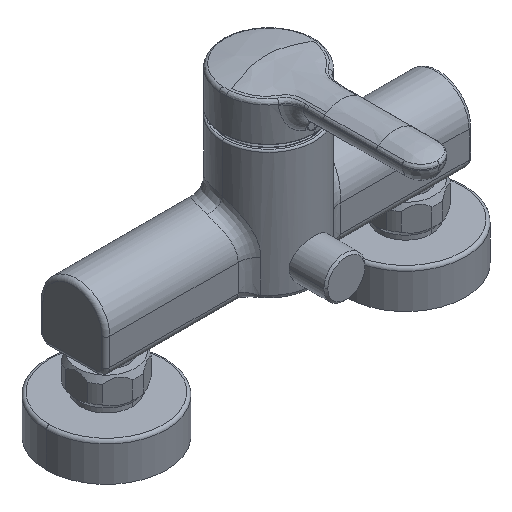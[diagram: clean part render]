
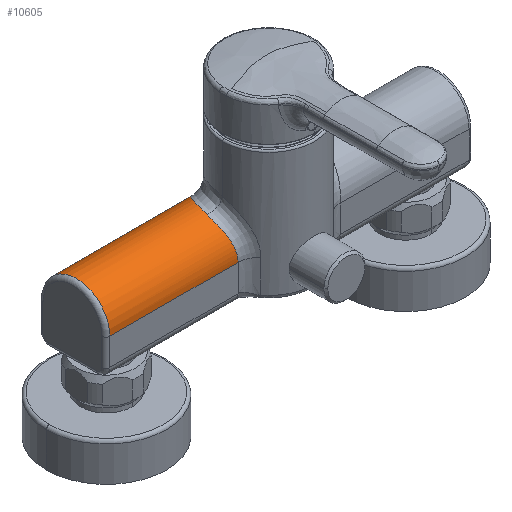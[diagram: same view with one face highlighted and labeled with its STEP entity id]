
A CAD part, isometric view. The second image highlights one B-rep face of the part: STEP entity #10605.
In plain terms, the highlighted cylindrical face has radius 16.75 mm (diameter 33.5 mm), a partial arc.
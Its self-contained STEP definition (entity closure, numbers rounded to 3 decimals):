
#1958=CARTESIAN_POINT('',(-90.,0.,0.));
#1959=DIRECTION('',(-1.,0.,0.));
#1960=DIRECTION('',(0.,-1.,0.));
#1961=AXIS2_PLACEMENT_3D('',#1958,#1959,#1960);
#1963=DIRECTION('',(1.,0.,0.));
#1964=VECTOR('',#1963,83.987);
#1965=CARTESIAN_POINT('',(-90.,16.75,0.));
#1966=LINE('',#1965,#1964);
#1967=CARTESIAN_POINT('',(-6.014,16.75,
0.003));
#1968=CARTESIAN_POINT('',(-6.134,16.75,
0.096));
#1969=CARTESIAN_POINT('',(-6.579,16.747,
0.446));
#1970=CARTESIAN_POINT('',(-7.381,16.722,1.086));
#1971=CARTESIAN_POINT('',(-8.453,16.644,1.954));
#1972=CARTESIAN_POINT('',(-9.626,16.505,2.916));
#1973=CARTESIAN_POINT('',(-10.91,16.285,3.975));
#1974=CARTESIAN_POINT('',(-12.316,15.959,5.139));
#1975=CARTESIAN_POINT('',(-13.855,15.496,6.413));
#1976=CARTESIAN_POINT('',(-15.537,14.851,7.803));
#1977=CARTESIAN_POINT('',(-17.373,13.967,9.308));
#1978=CARTESIAN_POINT('',(-19.37,12.76,10.923));
#1979=CARTESIAN_POINT('',(-21.117,11.422,12.301));
#1980=CARTESIAN_POINT('',(-22.556,10.083,13.4));
#1981=CARTESIAN_POINT('',(-23.651,8.909,14.209));
#1982=CARTESIAN_POINT('',(-24.686,7.625,14.939));
#1983=CARTESIAN_POINT('',(-25.613,6.279,15.552));
#1984=CARTESIAN_POINT('',(-26.425,4.892,16.041));
#1985=CARTESIAN_POINT('',(-27.103,3.52,16.396));
#1986=CARTESIAN_POINT('',(-27.674,2.13,16.633));
#1987=CARTESIAN_POINT('',(-28.132,0.762,
16.751));
#1988=CARTESIAN_POINT('',(-28.494,-0.61,
16.757));
#1989=CARTESIAN_POINT('',(-28.759,-1.962,
16.653));
#1990=CARTESIAN_POINT('',(-28.933,-3.299,
16.44));
#1991=CARTESIAN_POINT('',(-28.994,-4.17,
16.229));
#1992=CARTESIAN_POINT('',(-29.01,-4.6,
16.106));
#1994=CARTESIAN_POINT('',(-29.01,-4.6,
16.106));
#1995=CARTESIAN_POINT('',(-29.027,-5.016,
15.987));
#1996=CARTESIAN_POINT('',(-29.035,-5.837,
15.718));
#1997=CARTESIAN_POINT('',(-28.976,-7.054,
15.212));
#1998=CARTESIAN_POINT('',(-28.851,-8.242,
14.603));
#1999=CARTESIAN_POINT('',(-28.66,-9.419,
13.874));
#2000=CARTESIAN_POINT('',(-28.412,-10.543,
13.042));
#2001=CARTESIAN_POINT('',(-28.109,-11.626,
12.087));
#2002=CARTESIAN_POINT('',(-27.771,-12.628,
11.037));
#2003=CARTESIAN_POINT('',(-27.41,-13.545,
9.89));
#2004=CARTESIAN_POINT('',(-27.05,-14.351,
8.679));
#2005=CARTESIAN_POINT('',(-26.71,-15.038,
7.423));
#2006=CARTESIAN_POINT('',(-26.406,-15.603,
6.144));
#2007=CARTESIAN_POINT('',(-26.155,-16.044,
4.872));
#2008=CARTESIAN_POINT('',(-25.959,-16.373,
3.609));
#2009=CARTESIAN_POINT('',(-25.823,-16.595,
2.383));
#2010=CARTESIAN_POINT('',(-25.744,-16.722,
1.178));
#2011=CARTESIAN_POINT('',(-25.727,-16.75,0.392));
#2012=CARTESIAN_POINT('',(-25.727,-16.75,0.));
#2083=DIRECTION('',(1.,0.,0.));
#2084=VECTOR('',#2083,64.273);
#2085=CARTESIAN_POINT('',(-90.,-16.75,0.));
#2086=LINE('',#2085,#2084);
#4098=CARTESIAN_POINT('',(-90.,-16.75,0.));
#4099=CARTESIAN_POINT('',(-90.,16.75,0.));
#4100=VERTEX_POINT('',#4098);
#4101=VERTEX_POINT('',#4099);
#4150=VERTEX_POINT('',#1994);
#4151=VERTEX_POINT('',#2012);
#4152=VERTEX_POINT('',#1967);
#10591=CARTESIAN_POINT('',(-92.,0.,0.));
#10592=DIRECTION('',(1.,0.,0.));
#10593=DIRECTION('',(0.,0.,-1.));
#10594=AXIS2_PLACEMENT_3D('',#10591,#10592,#10593);
#10595=CYLINDRICAL_SURFACE('',#10594,16.75);
#10596=ORIENTED_EDGE('',*,*,#10584,.T.);
#10597=ORIENTED_EDGE('',*,*,#10538,.T.);
#10598=ORIENTED_EDGE('',*,*,#10517,.T.);
#10600=ORIENTED_EDGE('',*,*,#10599,.T.);
#10602=ORIENTED_EDGE('',*,*,#10601,.F.);
#10603=EDGE_LOOP('',(#10596,#10597,#10598,#10600,#10602));
#10604=FACE_OUTER_BOUND('',#10603,.F.);
#10605=ADVANCED_FACE('',(#10604),#10595,.T.);
#1962=CIRCLE('',#1961,16.75);
#1993=B_SPLINE_CURVE_WITH_KNOTS('',3,(#1967,#1968,#1969,#1970,#1971,#1972,#1973,
#1974,#1975,#1976,#1977,#1978,#1979,#1980,#1981,#1982,#1983,#1984,#1985,#1986,
#1987,#1988,#1989,#1990,#1991,#1992),.UNSPECIFIED.,.F.,.F.,(4,1,1,1,1,1,1,1,1,1,
1,1,1,1,1,1,1,1,1,1,1,1,1,4),(0.,0.012,0.044,
0.078,0.117,0.159,0.205,
0.256,0.312,0.375,0.445,
0.524,0.569,0.614,0.659,
0.704,0.745,0.785,0.822,
0.86,0.895,0.931,0.965,1.),
.UNSPECIFIED.);
#2013=B_SPLINE_CURVE_WITH_KNOTS('',3,(#1994,#1995,#1996,#1997,#1998,#1999,#2000,
#2001,#2002,#2003,#2004,#2005,#2006,#2007,#2008,#2009,#2010,#2011,#2012),
.UNSPECIFIED.,.F.,.F.,(4,1,1,1,1,1,1,1,1,1,1,1,1,1,1,1,4),(0.,0.054,
0.108,0.166,0.223,0.286,0.348,
0.415,0.482,0.55,0.618,0.685,
0.751,0.815,0.879,0.94,1.),.UNSPECIFIED.);
#10517=EDGE_CURVE('',#4152,#4150,#1993,.T.);
#10538=EDGE_CURVE('',#4101,#4152,#1966,.T.);
#10584=EDGE_CURVE('',#4100,#4101,#1962,.T.);
#10599=EDGE_CURVE('',#4150,#4151,#2013,.T.);
#10601=EDGE_CURVE('',#4100,#4151,#2086,.T.);
